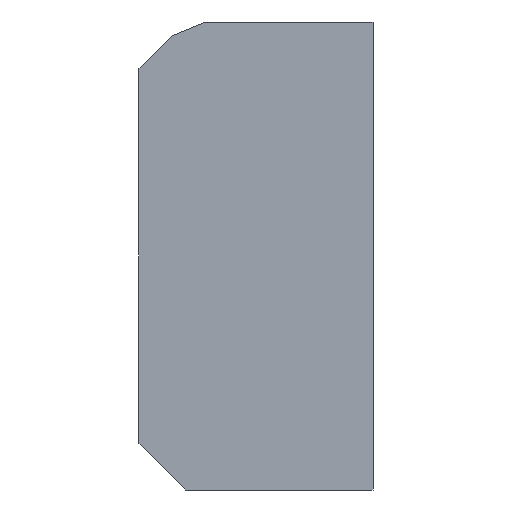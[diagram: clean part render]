
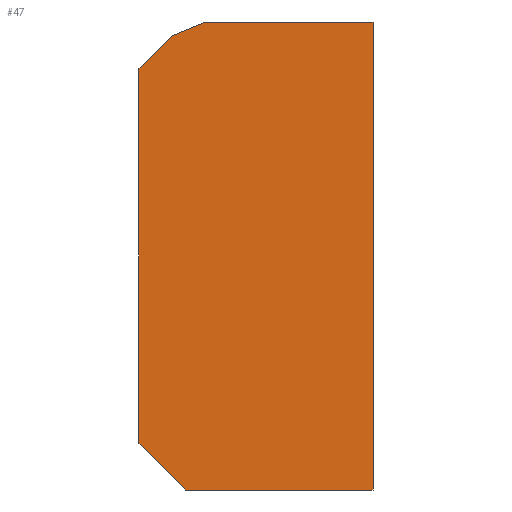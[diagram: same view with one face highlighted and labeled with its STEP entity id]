
A CAD part, front view. The second image highlights one B-rep face of the part: STEP entity #47.
In plain terms, the highlighted planar face has unit normal (0, -1, 0).
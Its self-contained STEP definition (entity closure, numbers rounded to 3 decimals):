
#47=ADVANCED_FACE('',(#68),#212,.T.);
#68=FACE_OUTER_BOUND('',#91,.F.);
#91=EDGE_LOOP('',(#133,#134,#135,#136,#137,#138,#139));
#133=ORIENTED_EDGE('',*,*,#261,.T.);
#134=ORIENTED_EDGE('',*,*,#266,.F.);
#135=ORIENTED_EDGE('',*,*,#264,.F.);
#136=ORIENTED_EDGE('',*,*,#244,.T.);
#137=ORIENTED_EDGE('',*,*,#267,.T.);
#138=ORIENTED_EDGE('',*,*,#256,.T.);
#139=ORIENTED_EDGE('',*,*,#241,.T.);
#212=PLANE('',#408);
#241=EDGE_CURVE('',#385,#384,#290,.T.);
#244=EDGE_CURVE('',#381,#380,#293,.T.);
#256=EDGE_CURVE('',#369,#385,#297,.T.);
#261=EDGE_CURVE('',#384,#366,#302,.T.);
#264=EDGE_CURVE('',#381,#364,#305,.T.);
#266=EDGE_CURVE('',#364,#366,#307,.T.);
#267=EDGE_CURVE('',#380,#369,#308,.T.);
#290=LINE('',#568,#323);
#293=LINE('',#571,#326);
#297=LINE('',#583,#330);
#302=LINE('',#588,#335);
#305=LINE('',#591,#338);
#307=LINE('',#593,#340);
#308=LINE('',#594,#341);
#323=VECTOR('',#428,0.383);
#326=VECTOR('',#431,0.707);
#330=VECTOR('',#451,0.5);
#335=VECTOR('',#456,1.793);
#338=VECTOR('',#459,2.);
#340=VECTOR('',#461,5.);
#341=VECTOR('',#462,4.);
#364=VERTEX_POINT('',#546);
#366=VERTEX_POINT('',#548);
#369=VERTEX_POINT('',#551);
#380=VERTEX_POINT('',#562);
#381=VERTEX_POINT('',#563);
#384=VERTEX_POINT('',#566);
#385=VERTEX_POINT('',#567);
#408=AXIS2_PLACEMENT_3D('',#621,#501,#502);
#428=DIRECTION('',(0.924,0.,0.383));
#431=DIRECTION('',(-0.707,0.,0.707));
#451=DIRECTION('',(0.707,0.,0.707));
#456=DIRECTION('',(1.,0.,0.));
#459=DIRECTION('',(1.,0.,0.));
#461=DIRECTION('',(0.,0.,1.));
#462=DIRECTION('',(0.,0.,1.));
#501=DIRECTION('',(0.,-1.,0.));
#502=DIRECTION('',(1.,0.,0.));
#546=CARTESIAN_POINT('',(316.83,411.352,-185.626));
#548=CARTESIAN_POINT('',(316.83,411.352,-180.626));
#551=CARTESIAN_POINT('',(314.33,411.352,-181.126));
#562=CARTESIAN_POINT('',(314.33,411.352,-185.126));
#563=CARTESIAN_POINT('',(314.83,411.352,-185.626));
#566=CARTESIAN_POINT('',(315.037,411.352,-180.626));
#567=CARTESIAN_POINT('',(314.683,411.352,-180.773));
#568=CARTESIAN_POINT('',(314.683,411.352,-180.773));
#571=CARTESIAN_POINT('',(314.83,411.352,-185.626));
#583=CARTESIAN_POINT('',(314.33,411.352,-181.126));
#588=CARTESIAN_POINT('',(315.037,411.352,-180.626));
#591=CARTESIAN_POINT('',(314.83,411.352,-185.626));
#593=CARTESIAN_POINT('',(316.83,411.352,-185.626));
#594=CARTESIAN_POINT('',(314.33,411.352,-185.126));
#621=CARTESIAN_POINT('',(314.28,411.352,-185.676));
